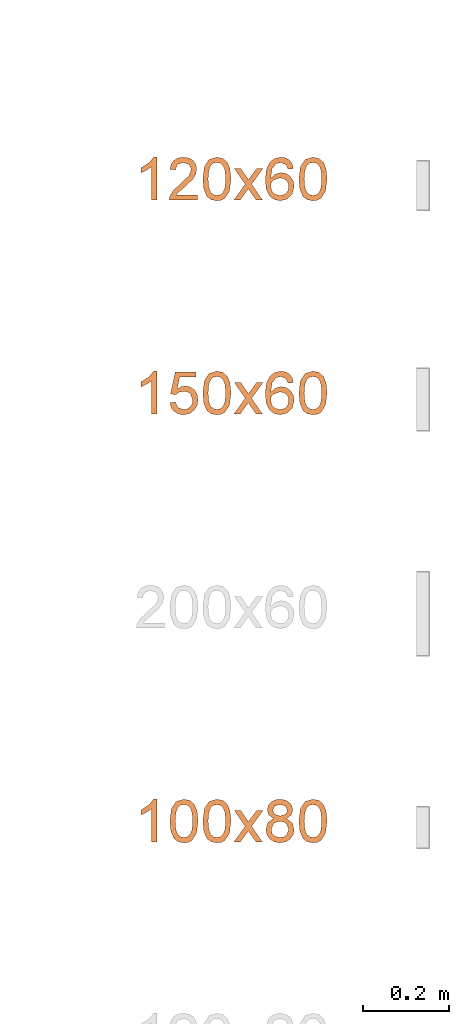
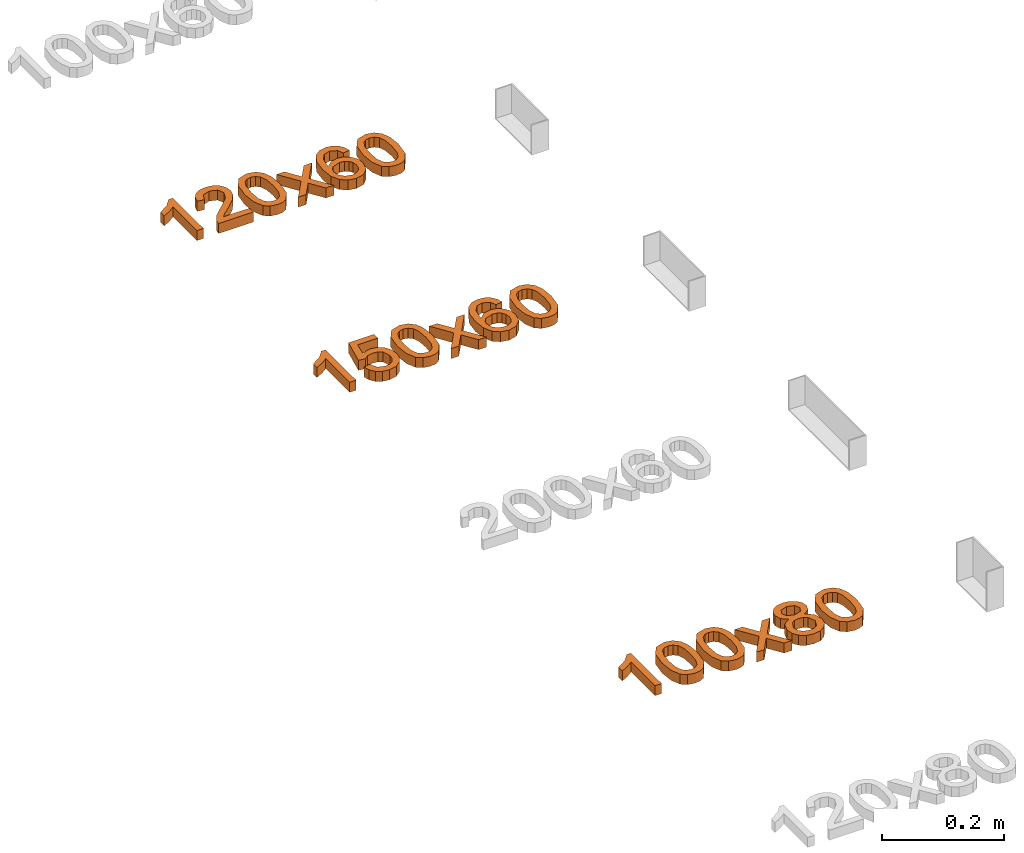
# One storey, part 58 of 71: 3 proxies.
"""IFC2X3 building model written with IfcOpenShell, lengths in millimetres."""

from ifc_helpers import new_model, entity, si_unit, converted_unit, derived_unit, direction, frame, origin, place, context, subcontext, project, spatial, polyline, outline, extrude, element, save


model = new_model("IFC2X3")

# Units and contexts
model_context = context("Model", 3, precision=0.01, world=origin(), true_north=direction((6.12303176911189e-17, 1.0)))
body_context = subcontext(model_context, "Body", "Model", "MODEL_VIEW")
ifc_project = project(units=[si_unit("LENGTHUNIT", "METRE", prefix="MILLI"), si_unit("AREAUNIT", "SQUARE_METRE"), si_unit("VOLUMEUNIT", "CUBIC_METRE"), converted_unit("PLANEANGLEUNIT", "DEGREE", entity("IfcRatioMeasure", 0.0174532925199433), si_unit("PLANEANGLEUNIT", "RADIAN"), dimensions=[0, 0, 0, 0, 0, 0, 0]), si_unit("MASSUNIT", "GRAM", prefix="KILO"), derived_unit("MASSDENSITYUNIT", [(si_unit("MASSUNIT", "GRAM", prefix="KILO"), 1), (si_unit("LENGTHUNIT", "METRE"), -3)]), si_unit("TIMEUNIT", "SECOND"), si_unit("FREQUENCYUNIT", "HERTZ"), si_unit("THERMODYNAMICTEMPERATUREUNIT", "DEGREE_CELSIUS"), derived_unit("THERMALTRANSMITTANCEUNIT", [(si_unit("MASSUNIT", "GRAM", prefix="KILO"), 1), (si_unit("THERMODYNAMICTEMPERATUREUNIT", "KELVIN"), -1), (si_unit("TIMEUNIT", "SECOND"), -3)]), derived_unit("VOLUMETRICFLOWRATEUNIT", [(si_unit("LENGTHUNIT", "METRE"), 3), (si_unit("TIMEUNIT", "SECOND"), -1)]), si_unit("ELECTRICCURRENTUNIT", "AMPERE"), si_unit("ELECTRICVOLTAGEUNIT", "VOLT"), si_unit("POWERUNIT", "WATT"), si_unit("FORCEUNIT", "NEWTON", prefix="KILO"), si_unit("ILLUMINANCEUNIT", "LUX"), si_unit("LUMINOUSFLUXUNIT", "LUMEN"), si_unit("LUMINOUSINTENSITYUNIT", "CANDELA"), derived_unit("USERDEFINED", [(si_unit("MASSUNIT", "GRAM", prefix="KILO"), -1), (si_unit("LENGTHUNIT", "METRE"), -2), (si_unit("TIMEUNIT", "SECOND"), 3), (si_unit("LUMINOUSFLUXUNIT", "LUMEN"), 1)]), derived_unit("LINEARVELOCITYUNIT", [(si_unit("LENGTHUNIT", "METRE"), 1), (si_unit("TIMEUNIT", "SECOND"), -1)]), si_unit("PRESSUREUNIT", "PASCAL"), derived_unit("USERDEFINED", [(si_unit("LENGTHUNIT", "METRE"), -2), (si_unit("MASSUNIT", "GRAM", prefix="KILO"), 1), (si_unit("TIMEUNIT", "SECOND"), -2)])], contexts=[model_context])

# Site, building, storey
site_placement = place(None, origin())
site = spatial("IfcSite", under=ifc_project, at=site_placement, Name="Default", CompositionType="ELEMENT")
building_placement = place(site_placement, origin())
building = spatial("IfcBuilding", under=site, at=building_placement, Name="Наименование здания", CompositionType="ELEMENT")
storey_placement = place(building_placement, origin())
storey = spatial("IfcBuildingStorey", under=building, at=storey_placement, Name="Этаж 01", CompositionType="ELEMENT", Elevation=0.0)

# Proxies
proxy_1_placement = place(storey_placement, origin())
element("IfcBuildingElementProxy", 1, at=proxy_1_placement, inside=storey, Name="Текст модели:100 мм Arial", ObjectType="Текст модели:100 мм Arial", context=body_context, shape_type="SweptSolid", body=[
    extrude(outline(polyline([(-63.8793021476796, -16.9184842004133), (36.5770080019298, -16.9184842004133), (36.5770080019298, -8.82508030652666), (23.2106288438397, 2.34626961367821), (11.4629304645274, 20.7526321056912), (-0.407395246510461, 20.7526321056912), (5.93243780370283, 7.53340574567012), (14.4059864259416, -4.3614454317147), (-63.8793021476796, -4.3614454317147), (-63.8793021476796, -16.9184842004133)])), frame((23948.1263490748, -1389.45595365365, 0.0), z_axis=(0.0, 0.0, 1.0), x_axis=(0.0, 1.0, 0.0)), (0.0, 0.0, 1.0), 20.0),
    extrude(outline(polyline([(-32.3858783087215, -45.1669477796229), (-32.3858783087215, -57.7239865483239), (33.5385752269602, -57.7239865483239), (32.1896745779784, -49.0664969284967), (24.5622545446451, -35.7369059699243), (8.84143061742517, -21.1810416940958), (-12.8390816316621, -0.260818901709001), (-18.259209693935, 13.9639515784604), (-13.1456499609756, 25.4786580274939), (0.208466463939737, 30.1752848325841), (14.1266686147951, 25.5890226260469), (19.4119066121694, 12.90935652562), (31.9689453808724, 14.4789863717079), (28.9247218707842, 26.6252235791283), (22.3426998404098, 35.4973110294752), (12.5662358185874, 40.9235704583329), (-0.061313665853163, 42.7323236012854), (-12.7808336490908, 40.7212353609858), (-22.5389035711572, 34.6879706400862), (-28.7469122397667, 25.6748617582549), (-30.8162484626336, 14.724241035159), (-28.5844310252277, 2.81712712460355), (-21.1654774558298, -9.49465698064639), (-3.1760478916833, -26.6992716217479), (11.2694517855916, -38.7780637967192), (16.9348345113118, -45.1669477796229), (-32.3858783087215, -45.1669477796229)])), frame((24026.8367457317, -1395.61126925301, 0.0), z_axis=(0.0, 0.0, -1.0), x_axis=(-1.0, 0.0, 0.0)), (0.0, 0.0, -1.0), 20.0),
    extrude(outline(polyline([(-7.02884310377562, -33.3490673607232), (17.5323805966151, -33.3490673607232), (35.1984171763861, -27.6137612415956), (43.3439841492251, -18.4876517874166), (47.0516941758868, -5.75150665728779), (46.7162020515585, 4.48638208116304), (43.446577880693, 13.0955287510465), (27.9444305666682, 25.6659118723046), (-0.314338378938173, 32.2325535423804), (-24.0296505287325, 32.367828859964), (-39.4143020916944, 28.0260881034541), (-49.7293680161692, 18.9002174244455), (-54.4436715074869, 4.63998875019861), (-50.8676582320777, -14.130105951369), (-35.4058547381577, -26.7333390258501), (-7.02884310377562, -33.3490673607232)]), holes=[polyline([(-5.77428774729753, -20.8548320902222), (-25.015764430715, -17.3562860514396), (-36.7257089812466, -11.5717922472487), (-41.0962588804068, -4.77599682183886), (-41.9669219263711, 3.21464792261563), (-39.2244253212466, 11.279129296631), (-32.8654063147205, 17.2229259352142), (-20.9698370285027, 20.2947501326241), (-1.61768958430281, 19.7433141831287), (17.851414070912, 16.270770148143), (28.7803640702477, 10.7141596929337), (33.5546988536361, 3.61815959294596), (34.5599568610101, -4.4725533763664), (31.9421230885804, -12.1923199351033), (25.8471825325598, -18.1754808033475), (14.0250679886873, -21.4027476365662), (-5.77428774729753, -20.8548320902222)])]), frame((24105.6712003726, -1407.512078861, 0.0), z_axis=(0.0, 0.0, 1.0), x_axis=(0.101851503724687, -0.994799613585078, 0.0)), (0.0, 0.0, 1.0), 20.0),
    extrude(outline(polyline([(-34.5302215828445, -38.4265006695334), (-19.4225343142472, -38.4265006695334), (-0.341721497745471, -12.0616243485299), (2.47870713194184, -16.1328517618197), (17.8561745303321, -38.4265006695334), (32.9638617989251, -38.4265006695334), (7.40832586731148, -1.34399555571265), (33.9448804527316, 35.3461020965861), (18.8371931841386, 35.3461020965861), (4.95577923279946, 16.1671874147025), (0.0261604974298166, 9.34910777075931), (-5.66374769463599, 17.6877663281), (-17.8529044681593, 35.3461020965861), (-32.9605917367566, 35.3461020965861), (-7.69936140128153, -1.34399555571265), (-34.5302215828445, -38.4265006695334)])), frame((24178.512857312, -1414.9087551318, 0.0)), (0.0, 0.0, 1.0), 20.0),
    extrude(outline(polyline([(6.79275401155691, -32.5027761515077), (18.3659045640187, -32.5027761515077), (28.1525204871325, -28.8011371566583), (35.6312934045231, -21.7178704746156), (40.280914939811, -11.5729874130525), (41.41307898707, 3.23667074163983), (36.1391243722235, 16.3729018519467), (21.8599739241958, 28.8803269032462), (-1.50836821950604, 38.2054593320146), (-23.6059131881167, 41.7609274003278), (-39.981422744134, 38.596528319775), (-51.1650797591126, 29.9216784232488), (-57.6870671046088, 16.9457940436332), (-57.9805556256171, -0.0494879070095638), (-49.2081886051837, -14.3141019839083), (-33.6167855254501, -22.9350568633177), (-20.6265742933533, -24.2502330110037), (-8.97800352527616, -20.6254922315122), (0.0919027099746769, -13.035096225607), (5.34612034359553, -2.45330669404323), (5.85483161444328, 11.6447254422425), (-0.843339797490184, 24.991063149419), (19.7707676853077, 15.5765036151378), (28.4840991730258, 4.26766164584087), (28.3893512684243, -7.4637453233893), (19.9956250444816, -18.1936336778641), (8.633035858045, -19.9825396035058), (6.79275401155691, -32.5027761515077)]), holes=[polyline([(-18.758671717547, 29.9549594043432), (-11.6328110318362, 26.3613362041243), (-6.9415407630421, 20.203831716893), (-5.85783236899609, 4.1376106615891), (-9.48331864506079, -3.95286412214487), (-15.1077394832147, -9.26901644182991), (-22.3091633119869, -11.5969098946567), (-30.6656585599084, -10.7226080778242), (-38.6094491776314, -7.06141592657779), (-43.8637090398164, -1.22509865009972), (-46.183528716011, 6.17768396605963), (-45.3239987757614, 14.538272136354), (-39.6901171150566, 24.722197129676), (-30.0168134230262, 30.0585493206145), (-18.758671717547, 29.9549594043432)])]), frame((24254.1707871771, -1394.7875175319, 0.0), z_axis=(0.0, 0.0, 1.0), x_axis=(-0.267015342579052, 0.963692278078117, 0.0)), (0.0, 0.0, 1.0), 20.0),
    extrude(outline(polyline([(-7.02884310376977, -33.3490673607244), (17.5323805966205, -33.3490673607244), (35.198417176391, -27.6137612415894), (43.3439841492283, -18.487651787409), (47.0516941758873, -5.7515066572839), (46.7162020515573, 4.48638208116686), (43.4465778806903, 13.0955287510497), (27.9444305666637, 25.6659118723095), (-0.314338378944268, 32.232553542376), (-24.0296505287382, 32.3678288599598), (-39.4143020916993, 28.0260881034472), (-49.7293680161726, 18.9002174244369), (-54.4436715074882, 4.63998875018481), (-50.8676582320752, -14.1301059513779), (-35.4058547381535, -26.7333390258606), (-7.02884310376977, -33.3490673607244)]), holes=[polyline([(-5.77428774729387, -20.8548320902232), (-25.0157644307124, -17.3562860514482), (-36.7257089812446, -11.5717922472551), (-41.0962588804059, -4.77599682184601), (-41.9669219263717, 3.21464792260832), (-39.224425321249, 11.2791292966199), (-32.865406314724, 17.2229259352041), (-20.9698370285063, 20.2947501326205), (-1.61768958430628, 19.7433141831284), (17.8514140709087, 16.2707701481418), (28.7803640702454, 10.7141596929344), (33.5546988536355, 3.61815959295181), (34.5599568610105, -4.47255337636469), (31.9421230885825, -12.1923199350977), (25.847182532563, -18.175480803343), (14.0250679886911, -21.4027476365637), (-5.77428774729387, -20.8548320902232)])]), frame((24330.1282683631, -1407.512078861, 0.0), z_axis=(0.0, 0.0, 1.0), x_axis=(0.101851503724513, -0.994799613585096, 0.0)), (0.0, 0.0, 1.0), 20.0),
])
proxy_2_placement = place(storey_placement, origin())
element("IfcBuildingElementProxy", 2, at=proxy_2_placement, inside=storey, Name="Текст модели:100 мм Arial", ObjectType="Текст модели:100 мм Arial", context=body_context, shape_type="SweptSolid", body=[
    extrude(outline(polyline([(-63.8793021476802, -16.9184842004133), (36.5770080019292, -16.9184842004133), (36.5770080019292, -8.82508030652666), (23.2106288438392, 2.34626961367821), (11.4629304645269, 20.7526321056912), (-0.407395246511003, 20.7526321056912), (5.93243780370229, 7.53340574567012), (14.4059864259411, -4.3614454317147), (-63.8793021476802, -4.3614454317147), (-63.8793021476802, -16.9184842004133)])), frame((23948.1263490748, -1889.45595365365, 0.0), z_axis=(0.0, 0.0, 1.0), x_axis=(0.0, 1.0, 0.0)), (0.0, 0.0, 1.0), 20.0),
    extrude(outline(polyline([(3.8143956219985, -37.2548959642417), (15.7323946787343, -37.2548959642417), (26.158813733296, -33.0579698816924), (34.2921694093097, -25.0537205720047), (39.330978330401, -13.6317508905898), (40.2219288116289, 1.43409098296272), (34.3991305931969, 14.6815107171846), (25.5350217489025, 23.1481891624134), (13.9054384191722, 28.2770976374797), (0.912111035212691, 29.4702838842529), (-10.7159258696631, 25.7768606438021), (-19.7427074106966, 18.0989984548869), (-24.9322687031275, 7.33886785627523), (-25.5937300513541, -2.2112479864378), (-22.6370240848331, -12.2793380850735), (-47.9924930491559, 0.0204883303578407), (-38.0977082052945, 37.2324069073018), (-50.2330599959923, 40.4592412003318), (-62.737042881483, -6.56524698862), (-15.5021967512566, -30.4943712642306), (-10.7584434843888, -18.76237376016), (-14.4216298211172, -10.4922324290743), (-13.6981616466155, 0.72266773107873), (-9.9873815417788, 9.35727561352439), (-4.32553373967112, 14.6878856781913), (11.4370636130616, 15.9400687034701), (19.7481682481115, 12.2772427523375), (25.4355726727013, 6.40632241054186), (28.0665145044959, -1.27212018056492), (27.2082313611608, -10.3575128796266), (19.6530635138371, -21.9256319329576), (5.52431094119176, -24.7161898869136), (3.8143956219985, -37.2548959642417)])), frame((24029.8914117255, -1913.39170175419, 0.0), z_axis=(0.0, 0.0, 1.0), x_axis=(0.256974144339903, -0.966418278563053, 0.0)), (0.0, 0.0, 1.0), 20.0),
    extrude(outline(polyline([(-7.02884310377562, -33.3490673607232), (17.5323805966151, -33.3490673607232), (35.1984171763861, -27.6137612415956), (43.3439841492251, -18.4876517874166), (47.0516941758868, -5.75150665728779), (46.7162020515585, 4.48638208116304), (43.446577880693, 13.0955287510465), (27.9444305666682, 25.6659118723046), (-0.314338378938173, 32.2325535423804), (-24.0296505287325, 32.367828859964), (-39.4143020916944, 28.0260881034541), (-49.7293680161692, 18.9002174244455), (-54.4436715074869, 4.63998875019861), (-50.8676582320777, -14.130105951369), (-35.4058547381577, -26.7333390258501), (-7.02884310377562, -33.3490673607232)]), holes=[polyline([(-5.77428774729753, -20.8548320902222), (-25.015764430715, -17.3562860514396), (-36.7257089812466, -11.5717922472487), (-41.0962588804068, -4.77599682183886), (-41.9669219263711, 3.21464792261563), (-39.2244253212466, 11.279129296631), (-32.8654063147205, 17.2229259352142), (-20.9698370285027, 20.2947501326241), (-1.61768958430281, 19.7433141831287), (17.851414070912, 16.270770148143), (28.7803640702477, 10.7141596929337), (33.5546988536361, 3.61815959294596), (34.5599568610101, -4.4725533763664), (31.9421230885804, -12.1923199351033), (25.8471825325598, -18.1754808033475), (14.0250679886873, -21.4027476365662), (-5.77428774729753, -20.8548320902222)])]), frame((24105.6712003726, -1907.51207886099, 0.0), z_axis=(0.0, 0.0, 1.0), x_axis=(0.101851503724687, -0.994799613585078, 0.0)), (0.0, 0.0, 1.0), 20.0),
    extrude(outline(polyline([(-34.5302215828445, -38.4265006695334), (-19.4225343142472, -38.4265006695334), (-0.341721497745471, -12.0616243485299), (2.47870713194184, -16.1328517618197), (17.8561745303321, -38.4265006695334), (32.9638617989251, -38.4265006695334), (7.40832586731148, -1.34399555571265), (33.9448804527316, 35.3461020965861), (18.8371931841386, 35.3461020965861), (4.95577923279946, 16.1671874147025), (0.0261604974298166, 9.34910777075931), (-5.66374769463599, 17.6877663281), (-17.8529044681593, 35.3461020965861), (-32.9605917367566, 35.3461020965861), (-7.69936140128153, -1.34399555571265), (-34.5302215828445, -38.4265006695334)])), frame((24178.512857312, -1914.9087551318, 0.0)), (0.0, 0.0, 1.0), 20.0),
    extrude(outline(polyline([(6.79275401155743, -32.5027761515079), (18.3659045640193, -32.5027761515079), (28.152520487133, -28.8011371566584), (35.6312934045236, -21.7178704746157), (40.2809149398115, -11.5729874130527), (41.4130789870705, 3.23667074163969), (36.139124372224, 16.3729018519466), (21.8599739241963, 28.8803269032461), (-1.50836821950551, 38.2054593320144), (-23.6059131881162, 41.7609274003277), (-39.9814227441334, 38.5965283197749), (-51.165079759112, 29.9216784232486), (-57.6870671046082, 16.945794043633), (-57.9805556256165, -0.0494879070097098), (-49.2081886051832, -14.3141019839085), (-33.6167855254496, -22.9350568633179), (-20.6265742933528, -24.2502330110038), (-8.97800352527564, -20.6254922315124), (0.0919027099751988, -13.0350962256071), (5.34612034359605, -2.45330669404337), (5.8548316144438, 11.6447254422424), (-0.843339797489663, 24.9910631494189), (19.7707676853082, 15.5765036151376), (28.4840991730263, 4.26766164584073), (28.3893512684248, -7.46374532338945), (19.9956250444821, -18.1936336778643), (8.63303585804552, -19.9825396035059), (6.79275401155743, -32.5027761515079)]), holes=[polyline([(-18.7586717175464, 29.9549594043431), (-11.6328110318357, 26.3613362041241), (-6.94154076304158, 20.2038317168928), (-5.85783236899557, 4.13761066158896), (-9.48331864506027, -3.95286412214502), (-15.1077394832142, -9.26901644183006), (-22.3091633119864, -11.5969098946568), (-30.6656585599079, -10.7226080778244), (-38.6094491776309, -7.06141592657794), (-43.8637090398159, -1.22509865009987), (-46.1835287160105, 6.17768396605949), (-45.3239987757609, 14.5382721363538), (-39.6901171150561, 24.7221971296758), (-30.0168134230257, 30.0585493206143), (-18.7586717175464, 29.9549594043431)])]), frame((24254.1707871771, -1894.7875175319, 0.0), z_axis=(0.0, 0.0, 1.0), x_axis=(-0.267015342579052, 0.963692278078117, 0.0)), (0.0, 0.0, 1.0), 20.0),
    extrude(outline(polyline([(-7.02884310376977, -33.3490673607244), (17.5323805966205, -33.3490673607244), (35.198417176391, -27.6137612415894), (43.3439841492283, -18.487651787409), (47.0516941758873, -5.7515066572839), (46.7162020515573, 4.48638208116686), (43.4465778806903, 13.0955287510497), (27.9444305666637, 25.6659118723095), (-0.314338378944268, 32.232553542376), (-24.0296505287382, 32.3678288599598), (-39.4143020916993, 28.0260881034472), (-49.7293680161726, 18.9002174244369), (-54.4436715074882, 4.63998875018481), (-50.8676582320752, -14.1301059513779), (-35.4058547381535, -26.7333390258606), (-7.02884310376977, -33.3490673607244)]), holes=[polyline([(-5.77428774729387, -20.8548320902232), (-25.0157644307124, -17.3562860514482), (-36.7257089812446, -11.5717922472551), (-41.0962588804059, -4.77599682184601), (-41.9669219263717, 3.21464792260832), (-39.224425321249, 11.2791292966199), (-32.865406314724, 17.2229259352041), (-20.9698370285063, 20.2947501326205), (-1.61768958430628, 19.7433141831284), (17.8514140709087, 16.2707701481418), (28.7803640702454, 10.7141596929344), (33.5546988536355, 3.61815959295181), (34.5599568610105, -4.47255337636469), (31.9421230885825, -12.1923199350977), (25.847182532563, -18.175480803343), (14.0250679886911, -21.4027476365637), (-5.77428774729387, -20.8548320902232)])]), frame((24330.1282683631, -1907.51207886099, 0.0), z_axis=(0.0, 0.0, 1.0), x_axis=(0.101851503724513, -0.994799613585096, 0.0)), (0.0, 0.0, 1.0), 20.0),
])
proxy_3_placement = place(storey_placement, origin())
element("IfcBuildingElementProxy", 3, at=proxy_3_placement, inside=storey, Name="Текст модели:100 мм Arial", ObjectType="Текст модели:100 мм Arial", context=body_context, shape_type="SweptSolid", body=[
    extrude(outline(polyline([(-63.8793021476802, -16.9184842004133), (36.5770080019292, -16.9184842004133), (36.5770080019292, -8.82508030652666), (23.2106288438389, 2.34626961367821), (11.4629304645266, 20.7526321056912), (-0.407395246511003, 20.7526321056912), (5.93243780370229, 7.53340574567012), (14.4059864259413, -4.3614454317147), (-63.8793021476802, -4.3614454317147), (-63.8793021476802, -16.9184842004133)])), frame((23948.1263490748, -2889.45595365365, 0.0), z_axis=(0.0, 0.0, 1.0), x_axis=(0.0, 1.0, 0.0)), (0.0, 0.0, 1.0), 20.0),
    extrude(outline(polyline([(-7.02884310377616, -33.3490673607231), (17.5323805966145, -33.3490673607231), (35.1984171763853, -27.6137612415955), (43.3439841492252, -18.4876517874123), (47.0516941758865, -5.75150665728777), (46.716202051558, 4.48638208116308), (43.4465778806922, 13.0955287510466), (27.9444305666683, 25.6659118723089), (-0.314338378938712, 32.2325535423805), (-24.0296505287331, 32.367828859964), (-39.4143020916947, 28.0260881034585), (-49.7293680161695, 18.9002174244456), (-54.4436715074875, 4.63998875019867), (-50.8676582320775, -14.1301059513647), (-35.405854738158, -26.7333390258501), (-7.02884310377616, -33.3490673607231)]), holes=[polyline([(-5.77428774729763, -20.8548320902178), (-25.0157644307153, -17.3562860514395), (-36.725708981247, -11.5717922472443), (-41.0962588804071, -4.77599682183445), (-41.9669219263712, 3.21464792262), (-39.2244253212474, 11.2791292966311), (-32.8654063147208, 17.2229259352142), (-20.9698370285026, 20.2947501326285), (-1.61768958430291, 19.743314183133), (17.8514140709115, 16.2707701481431), (28.7803640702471, 10.7141596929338), (33.5546988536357, 3.61815959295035), (34.5599568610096, -4.47255337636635), (31.9421230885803, -12.192319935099), (25.8471825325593, -18.1754808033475), (14.0250679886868, -21.4027476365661), (-5.77428774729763, -20.8548320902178)])]), frame((24028.7593379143, -2907.51207886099, 0.0), z_axis=(0.0, 0.0, 1.0), x_axis=(0.101851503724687, -0.994799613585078, 0.0)), (0.0, 0.0, 1.0), 20.0),
    extrude(outline(polyline([(-7.02884310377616, -33.3490673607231), (17.5323805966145, -33.3490673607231), (35.1984171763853, -27.6137612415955), (43.3439841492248, -18.4876517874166), (47.0516941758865, -5.75150665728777), (46.716202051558, 4.48638208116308), (43.4465778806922, 13.0955287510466), (27.9444305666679, 25.6659118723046), (-0.314338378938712, 32.2325535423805), (-24.0296505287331, 32.367828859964), (-39.4143020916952, 28.0260881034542), (-49.7293680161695, 18.9002174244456), (-54.4436715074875, 4.63998875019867), (-50.867658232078, -14.130105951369), (-35.405854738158, -26.7333390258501), (-7.02884310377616, -33.3490673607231)]), holes=[polyline([(-5.77428774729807, -20.8548320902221), (-25.0157644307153, -17.3562860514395), (-36.7257089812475, -11.5717922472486), (-41.0962588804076, -4.77599682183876), (-41.9669219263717, 3.21464792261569), (-39.2244253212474, 11.2791292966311), (-32.8654063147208, 17.2229259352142), (-20.969837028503, 20.2947501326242), (-1.61768958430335, 19.7433141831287), (17.8514140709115, 16.2707701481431), (28.7803640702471, 10.7141596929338), (33.5546988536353, 3.61815959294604), (34.5599568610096, -4.47255337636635), (31.9421230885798, -12.1923199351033), (25.8471825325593, -18.1754808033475), (14.0250679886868, -21.4027476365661), (-5.77428774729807, -20.8548320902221)])]), frame((24105.6712003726, -2907.51207886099, 0.0), z_axis=(0.0, 0.0, 1.0), x_axis=(0.101851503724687, -0.994799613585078, 0.0)), (0.0, 0.0, 1.0), 20.0),
    extrude(outline(polyline([(-34.5302215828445, -38.4265006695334), (-19.4225343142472, -38.4265006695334), (-0.341721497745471, -12.0616243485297), (2.47870713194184, -16.1328517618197), (17.8561745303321, -38.4265006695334), (32.9638617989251, -38.4265006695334), (7.40832586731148, -1.34399555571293), (33.9448804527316, 35.3461020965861), (18.8371931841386, 35.3461020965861), (4.95577923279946, 16.1671874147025), (0.0261604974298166, 9.34910777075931), (-5.66374769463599, 17.6877663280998), (-17.8529044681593, 35.3461020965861), (-32.9605917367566, 35.3461020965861), (-7.69936140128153, -1.34399555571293), (-34.5302215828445, -38.4265006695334)])), frame((24178.512857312, -2914.9087551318, 0.0)), (0.0, 0.0, 1.0), 20.0),
    extrude(outline(polyline([(10.122432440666, -11.221212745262), (26.4477736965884, -11.221212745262), (39.6861381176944, -0.0909413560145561), (44.6322314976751, 11.3078156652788), (44.5856416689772, 23.4168603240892), (39.6073830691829, 34.8346290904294), (29.7584701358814, 44.159558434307), (17.4236057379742, 49.795656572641), (4.98749274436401, 50.1469317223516), (-6.20047708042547, 45.7236060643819), (-14.790911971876, 37.0359017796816), (-20.0781666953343, 21.0056847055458), (-14.5070621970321, 5.37692494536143), (-28.0684052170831, 5.15563707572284), (-37.7221714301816, -2.60845010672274), (-41.5236361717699, -11.9357006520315), (-41.0036870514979, -22.2232653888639), (-36.1916154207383, -32.1870777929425), (-27.1167126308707, -40.5430713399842), (-16.0503295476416, -45.8123091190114), (-5.18246445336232, -46.5706787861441), (4.3845330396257, -43.2361071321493), (11.5483133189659, -36.2265209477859), (15.2516244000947, -24.0826582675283), (10.122432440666, -11.221212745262)]), holes=[polyline([(29.0262968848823, 6.56051660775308), (17.1806533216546, -1.5157169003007), (9.68494123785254, -1.27757268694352), (1.95268767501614, 2.32885586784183), (-4.46267094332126, 8.27886886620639), (-7.64161156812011, 15.3010558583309), (-4.59707955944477, 29.6929468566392), (7.31333657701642, 37.7994665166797), (14.8367372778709, 37.4872096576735), (22.6595729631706, 33.8012523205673), (30.373035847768, 25.5864099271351), (32.5711030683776, 15.5727469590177), (29.0262968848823, 6.56051660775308)]), polyline([(1.34077476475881, -28.9039041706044), (-7.53771017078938, -33.9815875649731), (-20.241535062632, -30.0339976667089), (-28.5905650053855, -19.6902819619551), (-26.9800933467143, -9.13787919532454), (-18.1108932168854, -3.8764892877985), (-5.45128168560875, -7.82385811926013), (3.15927028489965, -18.2403048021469), (1.34077476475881, -28.9039041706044)])]), frame((24252.2860732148, -2901.65422231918, 0.0), z_axis=(0.0, 0.0, 1.0), x_axis=(-0.829266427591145, -0.558853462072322, 0.0)), (0.0, 0.0, 1.0), 20.0),
    extrude(outline(polyline([(-7.02884310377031, -33.3490673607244), (17.5323805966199, -33.3490673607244), (35.1984171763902, -27.6137612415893), (43.343984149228, -18.487651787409), (47.0516941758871, -5.75150665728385), (46.7162020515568, 4.48638208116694), (43.4465778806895, 13.0955287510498), (27.9444305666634, 25.6659118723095), (-0.314338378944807, 32.2325535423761), (-24.0296505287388, 32.3678288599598), (-39.4143020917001, 28.0260881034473), (-49.7293680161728, 18.9002174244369), (-54.4436715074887, 4.63998875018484), (-50.8676582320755, -14.1301059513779), (-35.4058547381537, -26.7333390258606), (-7.02884310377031, -33.3490673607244)]), holes=[polyline([(-5.77428774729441, -20.8548320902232), (-25.0157644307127, -17.3562860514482), (-36.7257089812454, -11.571792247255), (-41.0962588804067, -4.77599682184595), (-41.9669219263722, 3.21464792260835), (-39.2244253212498, 11.27912929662), (-32.8654063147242, 17.2229259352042), (-20.9698370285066, 20.2947501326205), (-1.61768958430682, 19.7433141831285), (17.8514140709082, 16.2707701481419), (28.7803640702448, 10.7141596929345), (33.5546988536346, 3.61815959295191), (34.5599568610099, -4.47255337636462), (31.942123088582, -12.1923199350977), (25.8471825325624, -18.1754808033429), (14.0250679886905, -21.4027476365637), (-5.77428774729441, -20.8548320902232)])]), frame((24330.1282683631, -2907.51207886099, 0.0), z_axis=(0.0, 0.0, 1.0), x_axis=(0.101851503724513, -0.994799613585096, 0.0)), (0.0, 0.0, 1.0), 20.0),
])

save(model, "model.ifc")
